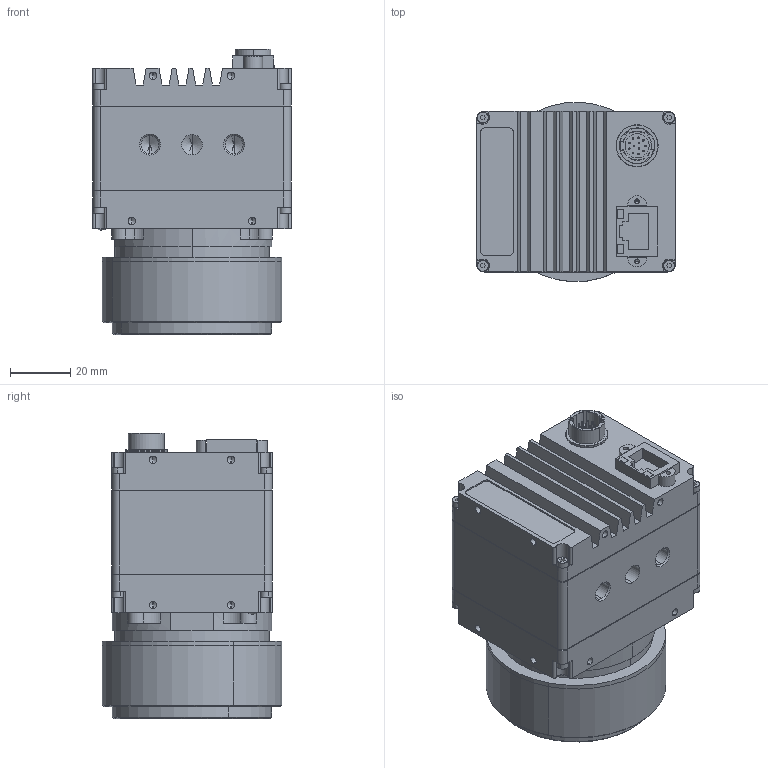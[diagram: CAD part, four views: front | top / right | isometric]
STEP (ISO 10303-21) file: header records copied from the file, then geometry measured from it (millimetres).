
FILE_DESCRIPTION (( 'STEP AP214' ), '1' );
FILE_NAME ('GT4907 M42.STEP', '2016-01-23T00:10:37', ( '' ), ( '' ), 'SwSTEP 2.0', 'SolidWorks 2015', '' );
FILE_SCHEMA (( 'AUTOMOTIVE_DESIGN' ));
Length unit declared in the file: millimetre
Products named in the file (4): LEGACY LENS MOUNT BASE - defeatured; LEGACY M42 ASSY - defeatured; GTLF BODY ASSY - defeatured_GT4907; GT4907 M42
Assembly tree (3 placements, depth 2):
  GT4907 M42
    GTLF BODY ASSY - defeatured_GT4907
    LEGACY LENS MOUNT BASE - defeatured
    LEGACY M42 ASSY - defeatured
Bounding box: 66.04 x 59.63 x 94.94 mm (x, y, z)
Volume: 194234.4 mm3; surface area: 50294.7 mm2
Topology: 3 solids, 11 shells, 763 faces, 1905 edges, 1145 vertices
Faces by surface type: cylinder 323, plane 255, cone 142, sphere 26, torus 17
Entity records: 25940 total; most frequent: DIRECTION 4083, CARTESIAN_POINT 4021, ORIENTED_EDGE 3542, EDGE_CURVE 1771, AXIS2_PLACEMENT_3D 1563, VERTEX_POINT 1121, VECTOR 957, LINE 957
